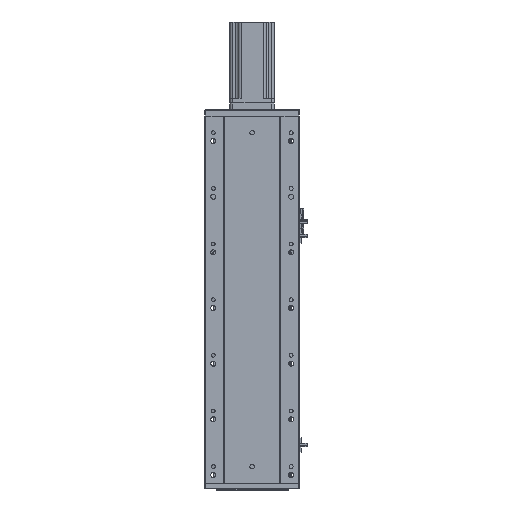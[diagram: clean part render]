
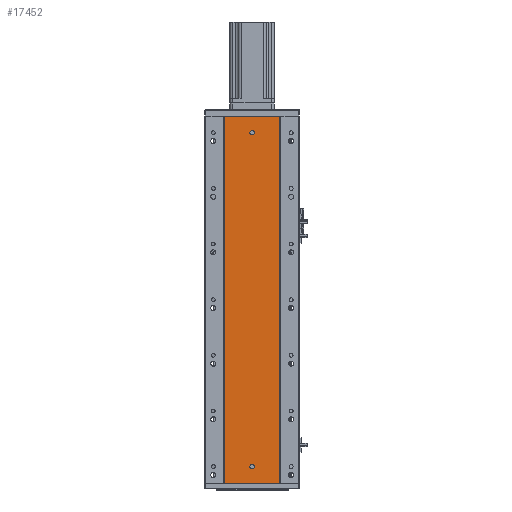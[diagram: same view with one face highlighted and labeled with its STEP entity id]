
A CAD part, front view. The second image highlights one B-rep face of the part: STEP entity #17452.
In plain terms, the highlighted planar face has unit normal (0, -1, 0).
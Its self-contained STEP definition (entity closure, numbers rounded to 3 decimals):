
#2187 = LINE ( 'NONE', #14132, #27410 ) ;
#2308 = LINE ( 'NONE', #16445, #25028 ) ;
#2962 = CARTESIAN_POINT ( 'NONE',  ( 86.97, 79.476, 0. ) ) ;
#3158 = CARTESIAN_POINT ( 'NONE',  ( 185.97, 79.476, 440. ) ) ;
#4364 = DIRECTION ( 'NONE',  ( 0., 0., 1. ) ) ;
#4533 = CARTESIAN_POINT ( 'NONE',  ( 86.97, 79.476, 0. ) ) ;
#4670 = CIRCLE ( 'NONE', #63808, 4. ) ;
#5738 = AXIS2_PLACEMENT_3D ( 'NONE', #38271, #54771, #22480 ) ;
#6492 = AXIS2_PLACEMENT_3D ( 'NONE', #62754, #20123, #4364 ) ;
#6788 = DIRECTION ( 'NONE',  ( 1., 0., 0. ) ) ;
#7276 = EDGE_CURVE ( 'NONE', #65389, #10292, #17056, .T. ) ;
#7498 = EDGE_CURVE ( 'NONE', #10292, #65389, #17851, .T. ) ;
#8088 = B_SPLINE_CURVE_WITH_KNOTS ( 'NONE', 3,
 ( #15143, #52346, #52813, #4533 ),
 .UNSPECIFIED., .F., .F.,
 ( 4, 4 ),
 ( 0., 1. ),
 .UNSPECIFIED. ) ;
#9142 = CARTESIAN_POINT ( 'NONE',  ( 136.47, 79.476, 30. ) ) ;
#10292 = VERTEX_POINT ( 'NONE', #52922 ) ;
#11578 = VERTEX_POINT ( 'NONE', #23189 ) ;
#14132 = CARTESIAN_POINT ( 'NONE',  ( 0., 79.476, 0. ) ) ;
#14413 = CARTESIAN_POINT ( 'NONE',  ( 185.97, 79.476, 0. ) ) ;
#14749 = ORIENTED_EDGE ( 'NONE', *, *, #33420, .T. ) ;
#15143 = CARTESIAN_POINT ( 'NONE',  ( 86.97, 79.476, 660. ) ) ;
#16374 = EDGE_CURVE ( 'NONE', #65011, #48098, #8088, .T. ) ;
#16445 = CARTESIAN_POINT ( 'NONE',  ( 0., 79.476, 660. ) ) ;
#17056 = CIRCLE ( 'NONE', #28275, 4. ) ;
#17252 = EDGE_CURVE ( 'NONE', #11578, #41282, #4670, .T. ) ;
#17309 = ORIENTED_EDGE ( 'NONE', *, *, #17252, .F. ) ;
#17452 = ADVANCED_FACE ( 'NONE', ( #22350, #20652, #63615 ), #20355, .F. ) ;
#17851 = CIRCLE ( 'NONE', #5738, 4. ) ;
#18006 = EDGE_CURVE ( 'NONE', #41282, #11578, #64367, .T. ) ;
#18047 = CARTESIAN_POINT ( 'NONE',  ( 136.47, 79.476, 630. ) ) ;
#19321 = CARTESIAN_POINT ( 'NONE',  ( 86.97, 79.476, 660. ) ) ;
#19523 = DIRECTION ( 'NONE',  ( 1., 0., 0. ) ) ;
#20123 = DIRECTION ( 'NONE',  ( 0., 1., 0. ) ) ;
#20355 = PLANE ( 'NONE',  #6492 ) ;
#20652 = FACE_BOUND ( 'NONE', #67437, .T. ) ;
#22312 = CARTESIAN_POINT ( 'NONE',  ( 185.97, 79.476, 0. ) ) ;
#22350 = FACE_BOUND ( 'NONE', #53604, .T. ) ;
#22480 = DIRECTION ( 'NONE',  ( 0., 0., -1. ) ) ;
#23189 = CARTESIAN_POINT ( 'NONE',  ( 136.47, 79.476, 634. ) ) ;
#24032 = CARTESIAN_POINT ( 'NONE',  ( 136.47, 79.476, 626. ) ) ;
#24835 = ORIENTED_EDGE ( 'NONE', *, *, #18006, .F. ) ;
#25002 = DIRECTION ( 'NONE',  ( 0., -1., 0. ) ) ;
#25028 = VECTOR ( 'NONE', #6788, 1000. ) ;
#25030 = AXIS2_PLACEMENT_3D ( 'NONE', #56824, #25002, #40802 ) ;
#25126 = DIRECTION ( 'NONE',  ( 0., -1., 0. ) ) ;
#26456 = VERTEX_POINT ( 'NONE', #32456 ) ;
#27394 = ORIENTED_EDGE ( 'NONE', *, *, #32054, .F. ) ;
#27410 = VECTOR ( 'NONE', #19523, 1000. ) ;
#28275 = AXIS2_PLACEMENT_3D ( 'NONE', #9142, #25126, #46585 ) ;
#29130 = ORIENTED_EDGE ( 'NONE', *, *, #32907, .F. ) ;
#30413 = CARTESIAN_POINT ( 'NONE',  ( 185.97, 79.476, 220. ) ) ;
#32054 = EDGE_CURVE ( 'NONE', #65011, #26456, #2308, .T. ) ;
#32274 = ORIENTED_EDGE ( 'NONE', *, *, #7276, .F. ) ;
#32456 = CARTESIAN_POINT ( 'NONE',  ( 185.97, 79.476, 660. ) ) ;
#32907 = EDGE_CURVE ( 'NONE', #26456, #51781, #54716, .T. ) ;
#33420 = EDGE_CURVE ( 'NONE', #48098, #51781, #2187, .T. ) ;
#38271 = CARTESIAN_POINT ( 'NONE',  ( 136.47, 79.476, 30. ) ) ;
#39239 = DIRECTION ( 'NONE',  ( 0., -1., 0. ) ) ;
#40802 = DIRECTION ( 'NONE',  ( 0., 0., -1. ) ) ;
#41282 = VERTEX_POINT ( 'NONE', #24032 ) ;
#46585 = DIRECTION ( 'NONE',  ( 0., 0., -1. ) ) ;
#46914 = CARTESIAN_POINT ( 'NONE',  ( 185.97, 79.476, 660. ) ) ;
#48098 = VERTEX_POINT ( 'NONE', #2962 ) ;
#49844 = DIRECTION ( 'NONE',  ( 0., 0., -1. ) ) ;
#51781 = VERTEX_POINT ( 'NONE', #22312 ) ;
#51933 = ORIENTED_EDGE ( 'NONE', *, *, #7498, .F. ) ;
#52344 = ORIENTED_EDGE ( 'NONE', *, *, #16374, .T. ) ;
#52346 = CARTESIAN_POINT ( 'NONE',  ( 86.97, 79.476, 440. ) ) ;
#52813 = CARTESIAN_POINT ( 'NONE',  ( 86.97, 79.476, 220. ) ) ;
#52922 = CARTESIAN_POINT ( 'NONE',  ( 136.47, 79.476, 34. ) ) ;
#53604 = EDGE_LOOP ( 'NONE', ( #24835, #17309 ) ) ;
#54611 = CARTESIAN_POINT ( 'NONE',  ( 136.47, 79.476, 26. ) ) ;
#54716 = B_SPLINE_CURVE_WITH_KNOTS ( 'NONE', 3,
 ( #46914, #3158, #30413, #14413 ),
 .UNSPECIFIED., .F., .F.,
 ( 4, 4 ),
 ( 0., 1. ),
 .UNSPECIFIED. ) ;
#54771 = DIRECTION ( 'NONE',  ( 0., -1., 0. ) ) ;
#56824 = CARTESIAN_POINT ( 'NONE',  ( 136.47, 79.476, 630. ) ) ;
#62754 = CARTESIAN_POINT ( 'NONE',  ( 0., 79.476, 660. ) ) ;
#63615 = FACE_OUTER_BOUND ( 'NONE', #65279, .T. ) ;
#63808 = AXIS2_PLACEMENT_3D ( 'NONE', #18047, #39239, #49844 ) ;
#64367 = CIRCLE ( 'NONE', #25030, 4. ) ;
#65011 = VERTEX_POINT ( 'NONE', #19321 ) ;
#65279 = EDGE_LOOP ( 'NONE', ( #14749, #29130, #27394, #52344 ) ) ;
#65389 = VERTEX_POINT ( 'NONE', #54611 ) ;
#67437 = EDGE_LOOP ( 'NONE', ( #32274, #51933 ) ) ;
